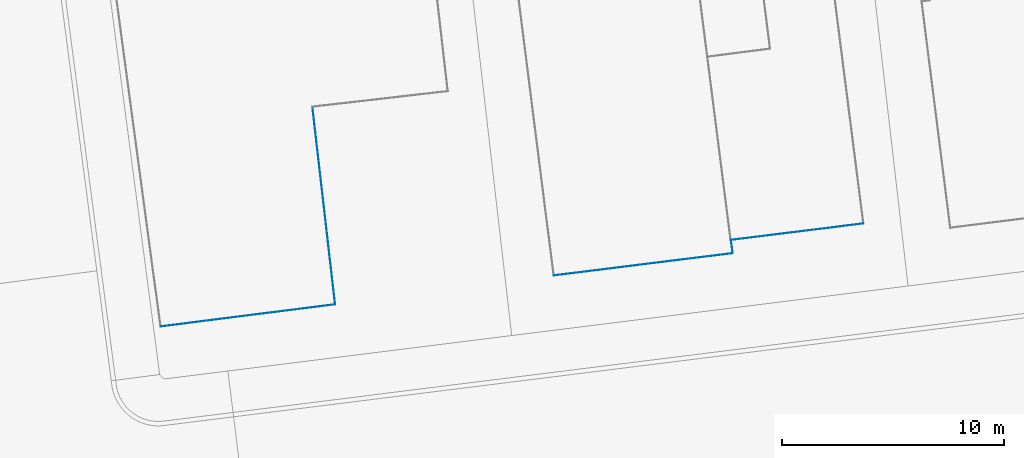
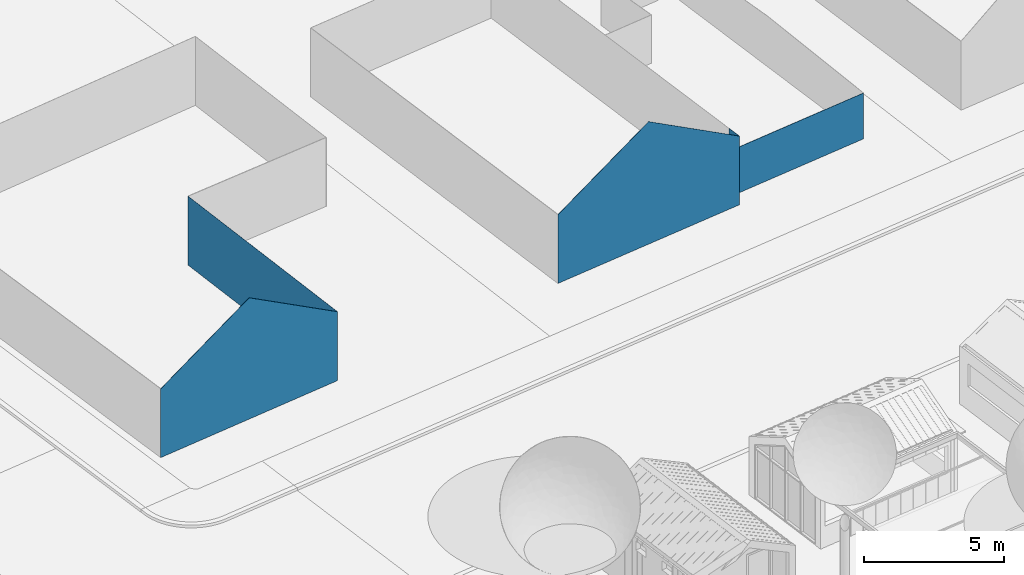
# One storey, part 25 of 75: 5 walls.
"""IFC2X3 building model written with IfcOpenShell, lengths in metres."""

from ifc_helpers import new_model, entity, si_unit, converted_unit, derived_unit, direction, frame, frame_2d, origin, place, context, subcontext, project, spatial, polyline, rectangle, outline, extrude, clip, bounded_halfspace, material, layer, layer_set, layer_usage, type_object, element, save


model = new_model("IFC2X3")

# Units and contexts
model_context = context("Model", 3, precision=1e-05, world=origin(), true_north=direction((6.123031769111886e-17, 1.0)))
body_context = subcontext(model_context, "Body", "Model", "MODEL_VIEW")
ifc_project = project(units=[si_unit("LENGTHUNIT", "METRE"), si_unit("AREAUNIT", "SQUARE_METRE"), si_unit("VOLUMEUNIT", "CUBIC_METRE"), converted_unit("PLANEANGLEUNIT", "DEGREE", entity("IfcRatioMeasure", 0.017453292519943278), si_unit("PLANEANGLEUNIT", "RADIAN"), dimensions=[0, 0, 0, 0, 0, 0, 0]), si_unit("MASSUNIT", "GRAM", prefix="KILO"), derived_unit("MASSDENSITYUNIT", [(si_unit("MASSUNIT", "GRAM", prefix="KILO"), 1), (si_unit("LENGTHUNIT", "METRE"), -3)]), derived_unit("IONCONCENTRATIONUNIT", [(si_unit("MASSUNIT", "GRAM", prefix="KILO"), 1), (si_unit("LENGTHUNIT", "METRE"), -3)]), derived_unit("MOMENTOFINERTIAUNIT", [(si_unit("LENGTHUNIT", "METRE"), 4)]), si_unit("TIMEUNIT", "SECOND"), si_unit("FREQUENCYUNIT", "HERTZ"), si_unit("THERMODYNAMICTEMPERATUREUNIT", "DEGREE_CELSIUS"), derived_unit("THERMALTRANSMITTANCEUNIT", [(si_unit("MASSUNIT", "GRAM", prefix="KILO"), 1), (si_unit("THERMODYNAMICTEMPERATUREUNIT", "KELVIN"), -1), (si_unit("TIMEUNIT", "SECOND"), -3)]), derived_unit("THERMALCONDUCTANCEUNIT", [(si_unit("MASSUNIT", "GRAM", prefix="KILO"), 1), (si_unit("THERMODYNAMICTEMPERATUREUNIT", "KELVIN"), -1), (si_unit("TIMEUNIT", "SECOND"), -3), (si_unit("LENGTHUNIT", "METRE"), 1)]), derived_unit("VOLUMETRICFLOWRATEUNIT", [(si_unit("LENGTHUNIT", "METRE"), 3), (si_unit("TIMEUNIT", "SECOND"), -1)]), derived_unit("MASSFLOWRATEUNIT", [(si_unit("MASSUNIT", "GRAM", prefix="KILO"), 1), (si_unit("TIMEUNIT", "SECOND"), -1)]), derived_unit("ROTATIONALFREQUENCYUNIT", [(si_unit("TIMEUNIT", "SECOND"), -1)]), si_unit("ELECTRICCURRENTUNIT", "AMPERE"), si_unit("ELECTRICVOLTAGEUNIT", "VOLT"), si_unit("POWERUNIT", "WATT"), si_unit("FORCEUNIT", "NEWTON", prefix="KILO"), si_unit("ILLUMINANCEUNIT", "LUX"), si_unit("LUMINOUSFLUXUNIT", "LUMEN"), si_unit("LUMINOUSINTENSITYUNIT", "CANDELA"), derived_unit("USERDEFINED", [(si_unit("MASSUNIT", "GRAM", prefix="KILO"), -1), (si_unit("LENGTHUNIT", "METRE"), -2), (si_unit("TIMEUNIT", "SECOND"), 3), (si_unit("LUMINOUSFLUXUNIT", "LUMEN"), 1)]), derived_unit("USERDEFINED", [(si_unit("MASSUNIT", "GRAM", prefix="KILO"), 1), (si_unit("TIMEUNIT", "SECOND"), -3), (si_unit("LENGTHUNIT", "METRE"), 3), (si_unit("ELECTRICCURRENTUNIT", "AMPERE"), -2)]), derived_unit("SOUNDPOWERUNIT", [(si_unit("MASSUNIT", "GRAM", prefix="KILO"), 1), (si_unit("TIMEUNIT", "SECOND"), -3), (si_unit("LENGTHUNIT", "METRE"), 2)]), derived_unit("SOUNDPRESSUREUNIT", [(si_unit("MASSUNIT", "GRAM", prefix="KILO"), 1), (si_unit("LENGTHUNIT", "METRE"), -1), (si_unit("TIMEUNIT", "SECOND"), -2)]), derived_unit("LINEARVELOCITYUNIT", [(si_unit("LENGTHUNIT", "METRE"), 1), (si_unit("TIMEUNIT", "SECOND"), -1)]), si_unit("PRESSUREUNIT", "PASCAL"), derived_unit("USERDEFINED", [(si_unit("MASSUNIT", "GRAM", prefix="KILO"), 1), (si_unit("LENGTHUNIT", "METRE"), -2), (si_unit("TIMEUNIT", "SECOND"), -2)]), derived_unit("LINEARFORCEUNIT", [(si_unit("MASSUNIT", "GRAM", prefix="KILO"), 1), (si_unit("TIMEUNIT", "SECOND"), -2)]), derived_unit("PLANARFORCEUNIT", [(si_unit("MASSUNIT", "GRAM", prefix="KILO"), 1), (si_unit("LENGTHUNIT", "METRE"), -1), (si_unit("TIMEUNIT", "SECOND"), -2)]), derived_unit("SPECIFICHEATCAPACITYUNIT", [(si_unit("THERMODYNAMICTEMPERATUREUNIT", "KELVIN"), -1), (si_unit("LENGTHUNIT", "METRE"), 2), (si_unit("TIMEUNIT", "SECOND"), -2)]), derived_unit("HEATINGVALUEUNIT", [(si_unit("LENGTHUNIT", "METRE"), 2), (si_unit("TIMEUNIT", "SECOND"), -2)]), derived_unit("VAPORPERMEABILITYUNIT", [(si_unit("LENGTHUNIT", "METRE"), -1), (si_unit("TIMEUNIT", "SECOND"), 1)]), derived_unit("DYNAMICVISCOSITYUNIT", [(si_unit("MASSUNIT", "GRAM", prefix="KILO"), 1), (si_unit("TIMEUNIT", "SECOND"), -1), (si_unit("LENGTHUNIT", "METRE"), -1)]), derived_unit("THERMALEXPANSIONCOEFFICIENTUNIT", [(si_unit("THERMODYNAMICTEMPERATUREUNIT", "KELVIN"), -1)]), derived_unit("MODULUSOFELASTICITYUNIT", [(si_unit("MASSUNIT", "GRAM", prefix="KILO"), 1), (si_unit("LENGTHUNIT", "METRE"), -1), (si_unit("TIMEUNIT", "SECOND"), -2)]), derived_unit("ISOTHERMALMOISTURECAPACITYUNIT", [(si_unit("LENGTHUNIT", "METRE"), 3), (si_unit("MASSUNIT", "GRAM", prefix="KILO"), -1)]), derived_unit("MOISTUREDIFFUSIVITYUNIT", [(si_unit("TIMEUNIT", "SECOND"), -1), (si_unit("LENGTHUNIT", "METRE"), 2)])], contexts=[model_context])

# Site, building, storey
site_placement = place(None, origin())
site = spatial("IfcSite", under=ifc_project, at=site_placement, Name="Default", CompositionType="ELEMENT")
building_placement = place(site_placement, origin())
building = spatial("IfcBuilding", under=site, at=building_placement, Name="Projeto", CompositionType="ELEMENT")
storey_placement = place(building_placement, origin())
storey = spatial("IfcBuildingStorey", under=building, at=storey_placement, Name="Nível 1", CompositionType="ELEMENT", Elevation=0.0)

# Walls
ifc_material = material(Name="Metal")
ifc_layer = layer(ifc_material, 0.01)
ifc_layer_set = layer_set([ifc_layer], Name="Parede básica:JA_Aluminio")
ifc_layer_usage = layer_usage(ifc_layer_set, "AXIS2", "NEGATIVE", 0.005)
wall_type = type_object("IfcWallType", Name="Parede básica:JA_Aluminio", PredefinedType="STANDARD", material=ifc_layer_set)
wall_1_placement = place(storey_placement, frame((2.6379981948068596, 50.358292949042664, -2.6), z_axis=(0.0, 0.0, 1.0), x_axis=(-0.9923633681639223, -0.1233488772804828, 0.0)))
element("IfcWallStandardCase", 1, at=wall_1_placement, inside=storey, type_object=wall_type, material=ifc_layer_usage, Name="Parede básica:JA_Aluminio", ObjectType="Parede básica:JA_Aluminio", context=body_context, shape_type="Clipping", body=[
    clip(extrude(outline(polyline([(6.0169248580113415, -0.004999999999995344), (6.01689318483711, 0.005000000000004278), (6.0118314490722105, 0.004999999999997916), (6.00183144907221, 0.005000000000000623), (0.0, 0.005000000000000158), (3.1673172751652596e-05, -0.005000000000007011), (6.0169248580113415, -0.004999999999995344)])), origin(), (0.0, 0.0, 1.0), 2.000349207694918), bounded_halfspace(frame((3.16731727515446e-05, -0.004999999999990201, 2.000349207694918), z_axis=(0.0, 0.03489949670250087, 0.9993908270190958), x_axis=(-1.0, 0.0, 0.0)), False, frame((3.16731727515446e-05, -0.004999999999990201, 2.000349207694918)), polyline([(0.0, 0.0), (6.01689318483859, 0.0), (6.01686151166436, 0.009999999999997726), (-3.1673172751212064e-05, 0.009999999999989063), (0.0, 0.0)]))),
])
wall_2_placement = place(storey_placement, frame((-3.322344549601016, 49.612395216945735, -2.6), z_axis=(0.0, 0.0, 1.0), x_axis=(0.12334887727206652, -0.9923633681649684, 0.0)))
element("IfcWallStandardCase", 2, at=wall_2_placement, inside=storey, type_object=wall_type, material=ifc_layer_usage, Name="Parede básica:JA_Aluminio", ObjectType="Parede básica:JA_Aluminio", context=body_context, shape_type="Clipping", body=[
    clip(extrude(rectangle(XDim=0.6024016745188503, YDim=0.009999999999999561, at=frame_2d((0.30120083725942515, 4.7704895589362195e-18), x_axis=(-1.0, 0.0))), origin(), (0.0, 0.0, 1.0), 2.9981791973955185), bounded_halfspace(frame((0.0, -0.005000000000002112, 2.997077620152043), z_axis=(-0.0015836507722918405, 0.49999749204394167, 0.8660254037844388), x_axis=(-0.9999949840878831, -0.003167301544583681, 0.0)), False, frame((0.0, -0.005000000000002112, 2.997077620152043)), polyline([(0.0, 0.0), (0.6024016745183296, 0.0), (0.6024016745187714, 0.010000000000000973), (0.0, 0.010000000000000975), (0.0, 0.0)]))),
])
wall_3_placement = place(storey_placement, frame((-3.2536175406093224, 49.01893893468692, -2.6), z_axis=(0.0, 0.0, 1.0), x_axis=(-0.9923633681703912, -0.12334887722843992, 0.0)))
element("IfcWallStandardCase", 3, at=wall_3_placement, inside=storey, type_object=wall_type, material=ifc_layer_usage, Name="Parede básica:JA_Aluminio", ObjectType="Parede básica:JA_Aluminio", context=body_context, shape_type="Clipping", body=[
    clip(clip(extrude(outline(polyline([(8.124602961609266, -0.004999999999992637), (8.124577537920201, 0.0050000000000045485), (0.0, 0.0050000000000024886), (0.0, -0.004999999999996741), (8.114602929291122, -0.00499999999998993), (8.124602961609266, -0.004999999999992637)])), origin(), (0.0, 0.0, 1.0), 5.344443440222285), bounded_halfspace(frame((4.063897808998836, -0.004999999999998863, 5.344441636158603), z_axis=(0.4999983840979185, 0.0012711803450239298, 0.8660254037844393), x_axis=(-0.0025423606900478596, 0.9999967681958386, 0.0)), False, frame((4.063897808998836, -0.004999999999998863, 5.344441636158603)), polyline([(0.0, 0.0), (4.050705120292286, 0.0), (4.0607051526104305, 0.0), (4.060679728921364, 0.01000000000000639), (-2.8548429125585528e-05, 0.009999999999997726), (0.0, 0.0)]))), bounded_halfspace(frame((0.0, -0.004999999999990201, 2.9981609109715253), z_axis=(-0.4999974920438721, -0.0015836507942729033, 0.8660254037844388), x_axis=(0.0031673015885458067, -0.999994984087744, 0.0)), False, frame((0.0, -0.004999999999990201, 2.9981609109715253)), polyline([(0.0, 0.0), (4.063897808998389, 0.0), (4.063869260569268, 0.009999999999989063), (0.0, 0.009999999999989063), (0.0, 0.0)]))),
])
wall_4_placement = place(storey_placement, frame((-22.186293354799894, 55.613182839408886, -2.6), z_axis=(0.0, 0.0, 1.0), x_axis=(0.11431035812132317, -0.9934450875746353, 0.0)))
element("IfcWallStandardCase", 4, at=wall_4_placement, inside=storey, type_object=wall_type, material=ifc_layer_usage, Name="Parede básica:JA_Aluminio", ObjectType="Parede básica:JA_Aluminio", context=body_context, shape_type="Clipping", body=[
    clip(extrude(outline(polyline([(8.962146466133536, -0.004999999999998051), (8.96203176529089, 0.004999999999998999), (0.0, 0.00499999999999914), (0.0, -0.004999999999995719), (8.952145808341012, -0.0049999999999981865), (8.962146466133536, -0.004999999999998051)])), origin(), (0.0, 0.0, 1.0), 3.0057735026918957), bounded_halfspace(frame((0.0, -0.004999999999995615, 3.0057735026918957), z_axis=(0.0, 0.5000000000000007, 0.8660254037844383), x_axis=(-1.0, 0.0, 0.0)), False, frame((0.0, -0.004999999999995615, 3.0057735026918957)), polyline([(0.0, 0.0), (8.95214580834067, 0.0), (8.962146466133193, 0.0), (8.96203176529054, 0.009999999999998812), (0.0, 0.009999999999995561), (0.0, 0.0)]))),
])
wall_5_placement = place(storey_placement, frame((-21.167309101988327, 46.71418566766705, -2.6), z_axis=(0.0, 0.0, 1.0), x_axis=(-0.9920686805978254, -0.12569698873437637, 0.0)))
element("IfcWallStandardCase", 5, at=wall_5_placement, inside=storey, type_object=wall_type, material=ifc_layer_usage, Name="Parede básica:JA_Aluminio", ObjectType="Parede básica:JA_Aluminio", context=body_context, shape_type="Clipping", body=[
    clip(clip(extrude(outline(polyline([(7.928533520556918, -0.004999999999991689), (7.92845576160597, 0.005000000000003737), (0.00011470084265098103, 0.005000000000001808), (0.0, -0.004999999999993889), (7.918533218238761, -0.00499999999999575), (7.928533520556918, -0.004999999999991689)])), origin(), (0.0, 0.0, 1.0), 5.291547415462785), bounded_halfspace(frame((3.95933697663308, -0.004999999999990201, 5.291547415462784), z_axis=(0.49998488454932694, 0.0038878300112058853, 0.8660254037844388), x_axis=(-0.0077756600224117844, 0.9999697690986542, 0.0)), False, frame((3.95933697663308, -0.004999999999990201, 5.291547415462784)), polyline([(0.0, 0.0), (3.9591962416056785, 0.0), (3.9691965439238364, 0.0), (3.969118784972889, 0.009999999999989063), (1.846923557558e-05, 0.009999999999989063), (0.0, 0.0)]))), bounded_halfspace(frame((0.0, -0.004999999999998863, 3.0057735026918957), z_axis=(-0.4999671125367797, 0.0057346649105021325, 0.8660254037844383), x_axis=(-0.011469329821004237, -0.9999342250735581, 0.0)), False, frame((0.0, -0.004999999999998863, 3.0057735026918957)), polyline([(0.0, 0.0), (3.959336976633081, 0.0), (3.9593554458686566, 0.009999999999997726), (0.00011470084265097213, 0.009999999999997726), (0.0, 0.0)]))),
])

save(model, "model.ifc")
